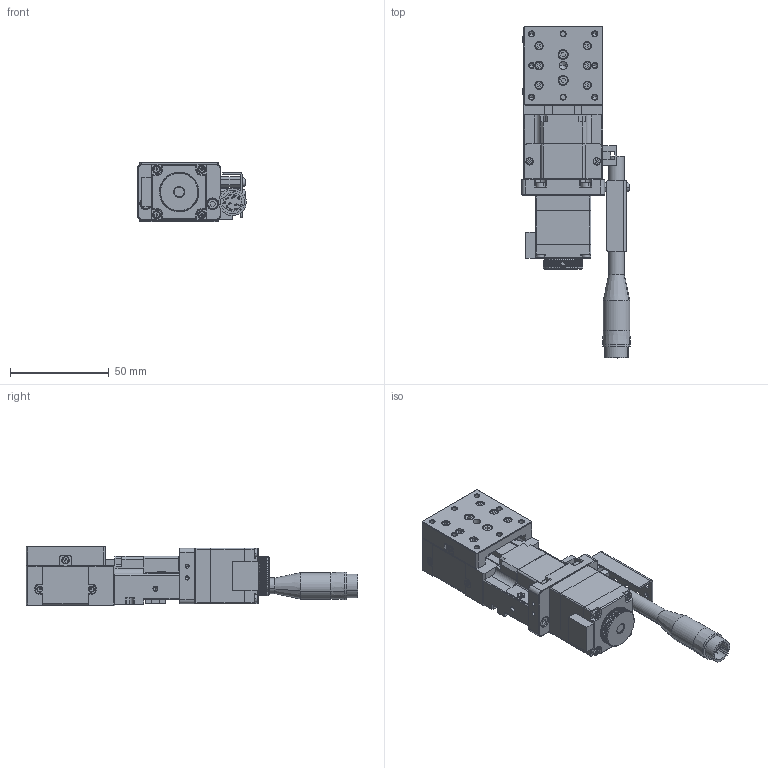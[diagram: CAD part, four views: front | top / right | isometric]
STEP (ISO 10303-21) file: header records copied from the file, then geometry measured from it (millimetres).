
FILE_DESCRIPTION (( 'STEP AP214' ), '1' );
FILE_NAME ('TXA4015B-L1-M28R.STEP', '2025-01-03T11:34:46', ( '' ), ( '' ), 'SwSTEP 2.0', 'SolidWorks 2020', '' );
FILE_SCHEMA (( 'AUTOMOTIVE_DESIGN' ));
Length unit declared in the file: millimetre
Products named in the file (1): TXA4015B-L1-M28R
Bounding box: 54.99 x 168 x 30 mm (x, y, z)
Volume: 101693.6 mm3; surface area: 56133.7 mm2
Topology: 64 solids, 64 shells, 2928 faces, 7213 edges, 4512 vertices
Faces by surface type: plane 1540, cylinder 724, cone 358, bspline 154, torus 148, sphere 4
Entity records: 126472 total; most frequent: CARTESIAN_POINT 24550, ORIENTED_EDGE 14290, DIRECTION 14069, EDGE_CURVE 7145, AXIS2_PLACEMENT_3D 4843, VERTEX_POINT 4512, VECTOR 4383, LINE 4383
